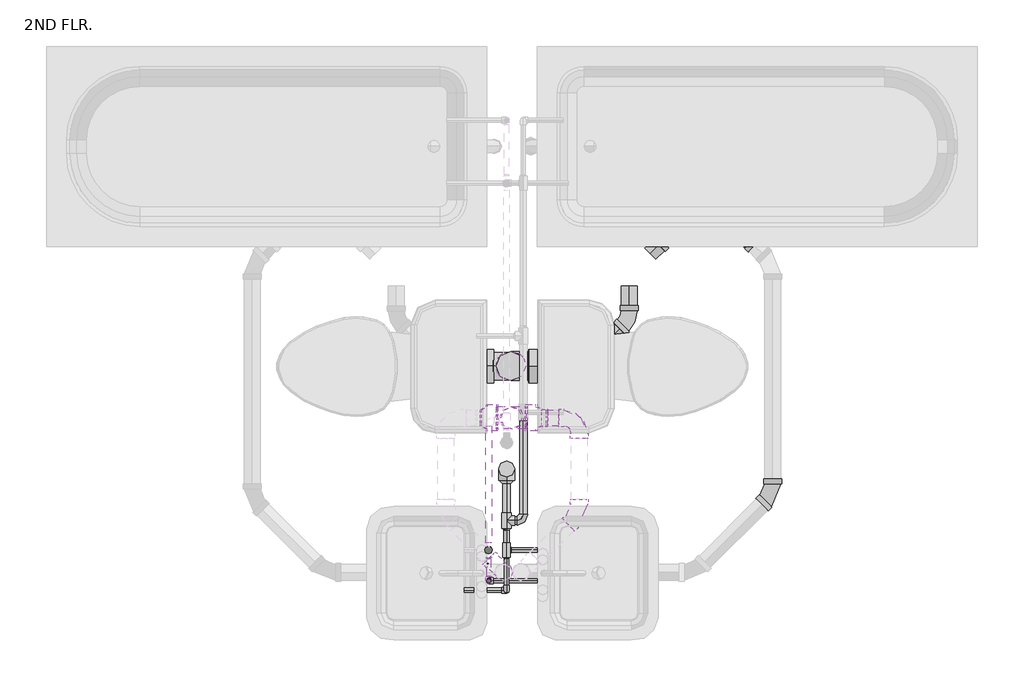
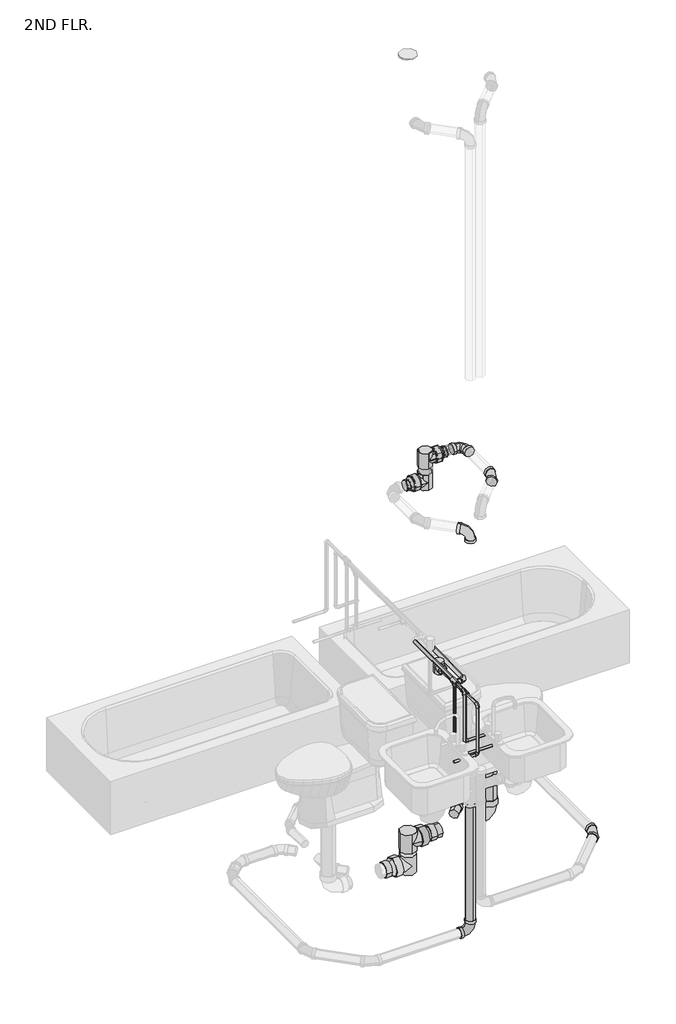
# One storey, part 3 of 15: 40 pipe fittings, 27 pipe segments.
"""IFC4 building model written with IfcOpenShell, lengths in millimetres."""

from ifc_helpers import new_model, si_unit, point, frame, frame_2d, origin, place, context, project, spatial, circle_curve, trimmed, segment, composite_curve, outline, extrude, transform, mapped, element, save
from components import bend_pvc_sch_40_dwv_standard_c28c2be1, bend_pvc_sch_40_dwv_standard_1eaeee76, bend_pvc_sch_40_dwv_standard_7417f2e3, bend_pvc_sch_40_dwv_standard_1a41d59f, bend_pvc_sch_40_dwv_standard_49f8c181, bend_pvc_sch_40_dwv_standard_f64d1520, bend_pvc_sch_40_dwv_standard_b7f24270, bend_pvc_sch_40_dwv_standard_48e93688, pipe_elbow_copper_k_aad62f2d, pipe_elbow_copper_k_a25a5501, pipe_tee_copper_k_36278b8a, pipe_tee_copper_k_ee363fbf, pipe_tee_copper_k_feafe2f1, pipe_tee_copper_k_8ae7f23d, pipe_tee_standard_047cd2b9, pipe_tee_standard_6d2680c1, pipe_transition_copper_k_859ff352, pipe_transition_copper_k_b4f16853, pipe_transition_copper_k_5cd7eb3f, reducer_pvc_sch_40_dwv_standard_464ee0c2, reducer_pvc_sch_40_dwv_standard_7c527b54, tee_generic_standard_f53002be

model = new_model("IFC4")

# Units and contexts
model_context = context("Model", 3, world=origin())
ifc_project = project(units=[si_unit("LENGTHUNIT", "METRE", prefix="MILLI")], contexts=[model_context])

# Site, building, storey
site = spatial("IfcSite", under=ifc_project)
building = spatial("IfcBuilding", under=site)
storey = spatial("IfcBuildingStorey", under=building, Name="2ND FLR.", Elevation=2844.8)

# Pipe fittings
placement = place(None, origin())
bend_pvc_sch_40_dwv_standard_shape = bend_pvc_sch_40_dwv_standard_c28c2be1(model_context)
element("IfcPipeFitting", 1, ObjectType="Bend - PVC - Sch 40 - DWV : Standard", at=placement, inside=storey, context=model_context, shape_type="MappedRepresentation", body=[
    mapped(bend_pvc_sch_40_dwv_standard_shape, transform((2563.0324353, 3982.0521786, 2461.5949826), x_axis=(0.7071067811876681, -0.7071067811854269, 0.0), y_axis=(0.7071067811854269, 0.7071067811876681, 0.0), z_axis=(0.0, 0.0, 1.0))),
])
bend_pvc_sch_40_dwv_standard_2_shape = bend_pvc_sch_40_dwv_standard_1eaeee76(model_context)
element("IfcPipeFitting", 2, ObjectType="Bend - PVC - Sch 40 - DWV : Standard", at=placement, inside=storey, context=model_context, shape_type="MappedRepresentation", body=[
    mapped(bend_pvc_sch_40_dwv_standard_2_shape, transform((2085.2449931, 2535.844278, 5187.9447608), x_axis=(0.0, 0.0, 1.0), y_axis=(-0.7071067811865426, 0.7071067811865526, 0.0), z_axis=(-0.7071067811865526, -0.7071067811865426, 0.0))),
])
element("IfcPipeFitting", 3, ObjectType="Bend - PVC - Sch 40 - DWV : Standard", at=placement, inside=storey, context=model_context, shape_type="MappedRepresentation", body=[
    mapped(bend_pvc_sch_40_dwv_standard_2_shape, transform((2085.1822491, 2535.7550295, 2303.90951), x_axis=(1.0, 0.0, 0.0), y_axis=(0.0, 3.174057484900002e-05, 0.9999999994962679), z_axis=(0.0, -0.9999999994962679, 3.174057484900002e-05))),
])
bend_pvc_sch_40_dwv_standard_3_shape = bend_pvc_sch_40_dwv_standard_7417f2e3(model_context)
element("IfcPipeFitting", 4, ObjectType="Bend - PVC - Sch 40 - DWV : Standard", at=placement, inside=storey, context=model_context, shape_type="MappedRepresentation", body=[
    mapped(bend_pvc_sch_40_dwv_standard_3_shape, transform((2670.7109214, 3321.8387881, 2460.5717279), x_axis=(0.9999739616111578, 0.0, -0.0072163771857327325), y_axis=(-0.0072163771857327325, 0.0, -0.9999739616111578), z_axis=(0.0, 1.0, 0.0))),
])
bend_pvc_sch_40_dwv_standard_4_shape = bend_pvc_sch_40_dwv_standard_1a41d59f(model_context)
element("IfcPipeFitting", 5, ObjectType="Bend - PVC - Sch 40 - DWV : Standard", at=placement, inside=storey, context=model_context, shape_type="MappedRepresentation", body=[
    mapped(bend_pvc_sch_40_dwv_standard_4_shape, transform((2563.0324353, 3499.7538114, 2461.5949826), x_axis=(0.0, -1.0, 0.0), y_axis=(0.9999186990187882, 0.0, -0.012751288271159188), z_axis=(0.012751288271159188, 0.0, 0.9999186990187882))),
])
bend_pvc_sch_40_dwv_standard_5_shape = bend_pvc_sch_40_dwv_standard_49f8c181(model_context)
element("IfcPipeFitting", 6, ObjectType="Bend - PVC - Sch 40 - DWV : Standard", at=placement, inside=storey, context=model_context, shape_type="MappedRepresentation", body=[
    mapped(bend_pvc_sch_40_dwv_standard_5_shape, transform((2372.3084875, 3124.2879719, 5340.4070012), x_axis=(1.0, 0.0, 0.0), y_axis=(0.0, 0.9999999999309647, -1.1750347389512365e-05), z_axis=(0.0, 1.1750347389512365e-05, 0.9999999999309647))),
])
bend_pvc_sch_40_dwv_standard_6_shape = bend_pvc_sch_40_dwv_standard_f64d1520(model_context)
element("IfcPipeFitting", 7, ObjectType="Bend - PVC - Sch 40 - DWV : Standard", at=placement, inside=storey, context=model_context, shape_type="MappedRepresentation", body=[
    mapped(bend_pvc_sch_40_dwv_standard_6_shape, transform((3108.9116861, 2834.70283, 2461.5689525), x_axis=(0.0, -1.0, 0.0), y_axis=(0.9999999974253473, 0.0, -7.175866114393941e-05), z_axis=(7.175866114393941e-05, 0.0, 0.9999999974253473))),
])
element("IfcPipeFitting", 8, ObjectType="Bend - PVC - Sch 40 - DWV : Standard", at=placement, inside=storey, context=model_context, shape_type="MappedRepresentation", body=[
    mapped(bend_pvc_sch_40_dwv_standard_6_shape, transform((2999.0889044, 3821.2555847, 2461.5689525), x_axis=(1.0, 0.0, 0.0), y_axis=(0.0, 1.0, 0.0), z_axis=(0.0, 0.0, 1.0))),
])
element("IfcPipeFitting", 9, ObjectType="Bend - PVC - Sch 40 - DWV : Standard", at=placement, inside=storey, context=model_context, shape_type="MappedRepresentation", body=[
    mapped(bend_pvc_sch_40_dwv_standard_6_shape, transform((2372.3084882, 2756.7793027, 5340.4113469), x_axis=(2.761384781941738e-10, -0.9999999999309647, 1.1750347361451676e-05), y_axis=(0.9999999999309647, 1.3806781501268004e-10, -1.1750347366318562e-05), z_axis=(1.1750347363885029e-05, 1.175034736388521e-05, 0.9999999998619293))),
])
bend_pvc_sch_40_dwv_standard_7_shape = bend_pvc_sch_40_dwv_standard_b7f24270(model_context)
element("IfcPipeFitting", 10, ObjectType="Bend - PVC - Sch 40 - DWV : Standard", at=placement, inside=storey, context=model_context, shape_type="MappedRepresentation", body=[
    mapped(bend_pvc_sch_40_dwv_standard_7_shape, transform((2713.5048204, 3819.4449792, 2460.289971), x_axis=(0.7071067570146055, 0.7071067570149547, 0.00026147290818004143), y_axis=(-0.707106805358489, 0.7071067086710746, 0.00026147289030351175), z_axis=(0.0, -0.00036977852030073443, 0.9999999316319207))),
])
bend_pvc_sch_40_dwv_standard_8_shape = bend_pvc_sch_40_dwv_standard_48e93688(model_context)
element("IfcPipeFitting", 11, ObjectType="Bend - PVC - Sch 40 - DWV : Standard", at=placement, inside=storey, context=model_context, shape_type="MappedRepresentation", body=[
    mapped(bend_pvc_sch_40_dwv_standard_8_shape, transform((2372.3085485, 3124.2566719, 5340.3916904), x_axis=(0.9999989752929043, 0.0, -0.0014315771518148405), y_axis=(-1.2572891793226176e-08, 0.9999999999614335, -8.782538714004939e-06), z_axis=(0.0014315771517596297, 8.782547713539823e-06, 0.9999989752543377))),
])
pipe_elbow_copper_k_shape = pipe_elbow_copper_k_aad62f2d(model_context)
element("IfcPipeFitting", 12, ObjectType="Pipe Elbow : Copper- K", at=placement, inside=storey, context=model_context, shape_type="MappedRepresentation", body=[
    mapped(pipe_elbow_copper_k_shape, transform((2096.0834875, 2468.1949561, 3962.4), x_axis=(0.0, -1.0, 0.0), y_axis=(0.0, 0.0, -1.0), z_axis=(1.0, 0.0, 0.0))),
])
element("IfcPipeFitting", 13, ObjectType="Pipe Elbow : Copper- K", at=placement, inside=storey, context=model_context, shape_type="MappedRepresentation", body=[
    mapped(pipe_elbow_copper_k_shape, transform((2096.0834875, 2468.1949561, 3606.8), x_axis=(0.0, 0.0, -1.0), y_axis=(-1.0, 0.0, 0.0), z_axis=(0.0, 1.0, 0.0))),
])
element("IfcPipeFitting", 14, ObjectType="Pipe Elbow : Copper- K", at=placement, inside=storey, context=model_context, shape_type="MappedRepresentation", body=[
    mapped(pipe_elbow_copper_k_shape, transform((2096.0834875, 2620.8535326, 3606.8), x_axis=(0.0, 0.0, -1.0), y_axis=(1.0, 0.0, 0.0), z_axis=(0.0, -1.0, 0.0))),
])
element("IfcPipeFitting", 15, ObjectType="Pipe Elbow : Copper- K", at=placement, inside=storey, context=model_context, shape_type="MappedRepresentation", body=[
    mapped(pipe_elbow_copper_k_shape, transform((2027.8209875, 2503.1307452, 4064.0), x_axis=(0.0, -1.0, 0.0), y_axis=(0.0, 0.0, -1.0), z_axis=(1.0, 0.0, 0.0))),
])
element("IfcPipeFitting", 16, ObjectType="Pipe Elbow : Copper- K", at=placement, inside=storey, context=model_context, shape_type="MappedRepresentation", body=[
    mapped(pipe_elbow_copper_k_shape, transform((2027.8209875, 2503.1307452, 3606.8), x_axis=(0.0, 0.0, -1.0), y_axis=(1.0, 0.0, 0.0), z_axis=(0.0, -1.0, 0.0))),
])
element("IfcPipeFitting", 17, ObjectType="Pipe Elbow : Copper- K", at=placement, inside=storey, context=model_context, shape_type="MappedRepresentation", body=[
    mapped(pipe_elbow_copper_k_shape, transform((2027.8209875, 2620.8535326, 3637.2601563), x_axis=(0.0, 0.0, -1.0), y_axis=(-1.0, 0.0, 0.0), z_axis=(0.0, 1.0, 0.0))),
])
pipe_elbow_copper_k_2_shape = pipe_elbow_copper_k_a25a5501(model_context)
element("IfcPipeFitting", 18, ObjectType="Pipe Elbow : Copper- K", at=placement, inside=storey, context=model_context, shape_type="MappedRepresentation", body=[
    mapped(pipe_elbow_copper_k_2_shape, transform((2159.5834875, 2733.1182853, 3962.4), x_axis=(1.0, 0.0, 0.0), y_axis=(0.0, 1.0, 0.0), z_axis=(0.0, 0.0, 1.0))),
])
pipe_tee_copper_k_shape = pipe_tee_copper_k_36278b8a(model_context)
element("IfcPipeFitting", 19, ObjectType="Pipe Tee : Copper- K", at=placement, inside=storey, context=model_context, shape_type="MappedRepresentation", body=[
    mapped(pipe_tee_copper_k_shape, transform((2096.0834875, 2929.398977, 3962.4), x_axis=(0.0, 0.0, 1.0), y_axis=(0.0, 1.0, 0.0), z_axis=(-1.0, 0.0, 0.0))),
])
pipe_tee_copper_k_2_shape = pipe_tee_copper_k_ee363fbf(model_context)
element("IfcPipeFitting", 20, ObjectType="Pipe Tee : Copper- K", at=placement, inside=storey, context=model_context, shape_type="MappedRepresentation", body=[
    mapped(pipe_tee_copper_k_2_shape, transform((2096.0834875, 2620.8535326, 3962.4), x_axis=(0.0, 1.0, 0.0), y_axis=(0.0, 0.0, 1.0), z_axis=(1.0, 0.0, 0.0))),
])
element("IfcPipeFitting", 21, ObjectType="Pipe Tee : Copper- K", at=placement, inside=storey, context=model_context, shape_type="MappedRepresentation", body=[
    mapped(pipe_tee_copper_k_2_shape, transform((2027.8209875, 2620.8535326, 4064.0), x_axis=(0.0, 1.0, 0.0), y_axis=(0.0, 0.0, 1.0), z_axis=(1.0, 0.0, 0.0))),
])
pipe_tee_copper_k_3_shape = pipe_tee_copper_k_feafe2f1(model_context)
element("IfcPipeFitting", 22, ObjectType="Pipe Tee : Copper- K", at=placement, inside=storey, context=model_context, shape_type="MappedRepresentation", body=[
    mapped(pipe_tee_copper_k_3_shape, transform((2096.0834875, 2733.1182853, 3962.4), x_axis=(0.0, 1.0, 0.0), y_axis=(-1.0, 0.0, 0.0), z_axis=(0.0, 0.0, 1.0))),
])
pipe_tee_copper_k_4_shape = pipe_tee_copper_k_8ae7f23d(model_context)
element("IfcPipeFitting", 23, ObjectType="Pipe Tee : Copper- K", at=placement, inside=storey, context=model_context, shape_type="MappedRepresentation", body=[
    mapped(pipe_tee_copper_k_4_shape, transform((2111.7559337, 3124.1638117, 5187.95), x_axis=(0.0, 0.0, 1.0), y_axis=(-1.0, 0.0, 0.0), z_axis=(0.0, -1.0, 0.0))),
])
element("IfcPipeFitting", 24, ObjectType="Pipe Tee : Standard", at=placement, inside=storey, context=model_context, shape_type="MappedRepresentation", body=[
    mapped(pipe_tee_copper_k_4_shape, transform((2111.7559337, 3124.1638117, 5340.35), x_axis=(0.0, 0.0, 1.0), y_axis=(1.0, 0.0, 0.0), z_axis=(0.0, 1.0, 0.0))),
])
element("IfcPipeFitting", 25, ObjectType="Pipe Tee : Standard", at=placement, inside=storey, context=model_context, shape_type="MappedRepresentation", body=[
    mapped(pipe_tee_copper_k_4_shape, transform((2118.30848, 3124.1638117, 5187.9490858), x_axis=(0.0, 0.0, 1.0), y_axis=(-1.0, 0.0, 0.0), z_axis=(0.0, -1.0, 0.0))),
])
pipe_tee_standard_shape = pipe_tee_standard_047cd2b9(model_context)
element("IfcPipeFitting", 26, ObjectType="Pipe Tee : Standard", at=placement, inside=storey, context=model_context, shape_type="MappedRepresentation", body=[
    mapped(pipe_tee_standard_shape, transform((2118.30848, 3124.1638117, 5340.7127068), x_axis=(0.0, 0.0, 1.0), y_axis=(1.0, 0.0, 0.0), z_axis=(0.0, 1.0, 0.0))),
])
pipe_tee_standard_2_shape = pipe_tee_standard_6d2680c1(model_context)
element("IfcPipeFitting", 27, ObjectType="Pipe Tee : Standard", at=placement, inside=storey, context=model_context, shape_type="MappedRepresentation", body=[
    mapped(pipe_tee_standard_2_shape, transform((2111.7564013, 3321.8387881, 2464.5581717), x_axis=(-6.991457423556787e-08, 0.0, 0.9999999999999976), y_axis=(0.9999999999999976, 0.0, 6.991457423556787e-08), z_axis=(0.0, 1.0, 0.0))),
])
pipe_transition_copper_k_shape = pipe_transition_copper_k_859ff352(model_context)
element("IfcPipeFitting", 28, ObjectType="Pipe Transition : Copper- K", at=placement, inside=storey, context=model_context, shape_type="MappedRepresentation", body=[
    mapped(pipe_transition_copper_k_shape, transform((2096.0834875, 2620.8535326, 3935.4125), x_axis=(0.0, 0.0, -1.0), y_axis=(0.0, 1.0, 0.0), z_axis=(1.0, 0.0, 0.0))),
])
element("IfcPipeFitting", 29, ObjectType="Pipe Transition : Copper- K", at=placement, inside=storey, context=model_context, shape_type="MappedRepresentation", body=[
    mapped(pipe_transition_copper_k_shape, transform((2096.0834875, 2593.8660326, 3962.4), x_axis=(0.0, -1.0, 0.0), y_axis=(1.0, 0.0, 0.0), z_axis=(0.0, 0.0, 1.0))),
])
element("IfcPipeFitting", 30, ObjectType="Pipe Transition : Copper- K", at=placement, inside=storey, context=model_context, shape_type="MappedRepresentation", body=[
    mapped(pipe_transition_copper_k_shape, transform((2027.8209875, 2620.8535326, 4037.0125), x_axis=(0.0, 0.0, -1.0), y_axis=(0.0, -1.0, 0.0), z_axis=(-1.0, 0.0, 0.0))),
])
element("IfcPipeFitting", 31, ObjectType="Pipe Transition : Copper- K", at=placement, inside=storey, context=model_context, shape_type="MappedRepresentation", body=[
    mapped(pipe_transition_copper_k_shape, transform((2027.8209875, 2593.8660326, 4064.0), x_axis=(0.0, -1.0, 0.0), y_axis=(1.0, 0.0, 0.0), z_axis=(0.0, 0.0, 1.0))),
])
pipe_transition_copper_k_2_shape = pipe_transition_copper_k_b4f16853(model_context)
element("IfcPipeFitting", 32, ObjectType="Pipe Transition : Copper- K", at=placement, inside=storey, context=model_context, shape_type="MappedRepresentation", body=[
    mapped(pipe_transition_copper_k_2_shape, transform((2096.0834875, 2702.9557853, 3962.4), x_axis=(0.0, -1.0, 0.0), y_axis=(1.0, 0.0, 0.0), z_axis=(0.0, 0.0, 1.0))),
])
pipe_transition_copper_k_3_shape = pipe_transition_copper_k_5cd7eb3f(model_context)
element("IfcPipeFitting", 33, ObjectType="Pipe Transition : Copper- K", at=placement, inside=storey, context=model_context, shape_type="MappedRepresentation", body=[
    mapped(pipe_transition_copper_k_3_shape, transform((2096.0834875, 2886.536477, 3962.4), x_axis=(0.0, -1.0, 0.0), y_axis=(1.0, 0.0, 0.0), z_axis=(0.0, 0.0, 1.0))),
])
reducer_pvc_sch_40_dwv_standard_shape = reducer_pvc_sch_40_dwv_standard_464ee0c2(model_context)
element("IfcPipeFitting", 34, ObjectType="Reducer - PVC - Sch 40 - DWV : Standard", at=placement, inside=storey, context=model_context, shape_type="MappedRepresentation", body=[
    mapped(reducer_pvc_sch_40_dwv_standard_shape, transform((2167.3184337, 3124.1638117, 5340.35), x_axis=(1.0, 0.0, 0.0), y_axis=(0.0, 1.0, 0.0), z_axis=(0.0, 0.0, 1.0))),
])
element("IfcPipeFitting", 35, ObjectType="Reducer - PVC - Sch 40 - DWV : Standard", at=placement, inside=storey, context=model_context, shape_type="MappedRepresentation", body=[
    mapped(reducer_pvc_sch_40_dwv_standard_shape, transform((2056.1934337, 3124.1638117, 5187.95), x_axis=(-1.0, 0.0, 0.0), y_axis=(0.0, -1.0, 0.0), z_axis=(0.0, 0.0, 1.0))),
])
element("IfcPipeFitting", 36, ObjectType="Reducer - PVC - Sch 40 - DWV : Standard", at=placement, inside=storey, context=model_context, shape_type="MappedRepresentation", body=[
    mapped(reducer_pvc_sch_40_dwv_standard_shape, transform((2062.74598, 3124.1638117, 5187.9490858), x_axis=(-1.0, 0.0, 0.0), y_axis=(0.0, -1.0, 0.0), z_axis=(0.0, 0.0, 1.0))),
])
element("IfcPipeFitting", 37, ObjectType="Reducer - PVC - Sch 40 - DWV : Standard", at=placement, inside=storey, context=model_context, shape_type="MappedRepresentation", body=[
    mapped(reducer_pvc_sch_40_dwv_standard_shape, transform((2173.8709231, 3124.1638117, 5340.6331648), x_axis=(0.9999989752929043, 0.0, -0.001431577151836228), y_axis=(0.0, 1.0000000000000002, 0.0), z_axis=(0.001431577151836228, 0.0, 0.9999989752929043))),
])
reducer_pvc_sch_40_dwv_standard_2_shape = reducer_pvc_sch_40_dwv_standard_7c527b54(model_context)
element("IfcPipeFitting", 38, ObjectType="Reducer - PVC - Sch 40 - DWV : Standard", at=placement, inside=storey, context=model_context, shape_type="MappedRepresentation", body=[
    mapped(reducer_pvc_sch_40_dwv_standard_2_shape, transform((2046.6709483, 3321.8387881, 2306.3393884), x_axis=(-0.9999739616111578, 0.0, -0.007216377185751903), y_axis=(0.007216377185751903, 0.0, -0.9999739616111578), z_axis=(0.0, -1.0, 0.0))),
])
element("IfcPipeFitting", 39, ObjectType="Reducer - PVC - Sch 40 - DWV : Standard", at=placement, inside=storey, context=model_context, shape_type="MappedRepresentation", body=[
    mapped(reducer_pvc_sch_40_dwv_standard_2_shape, transform((2180.0174651, 3321.8387881, 2464.1128491), x_axis=(0.9999739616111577, 0.0, -0.007216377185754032), y_axis=(-0.007216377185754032, 0.0, -0.9999739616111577), z_axis=(0.0, 1.0, 0.0))),
])
tee_generic_standard_shape = tee_generic_standard_f53002be(model_context)
element("IfcPipeFitting", 40, ObjectType="Tee - Generic : Standard", at=placement, inside=storey, context=model_context, shape_type="MappedRepresentation", body=[
    mapped(tee_generic_standard_shape, transform((2111.7564123, 3321.8387881, 2306.8563689), x_axis=(-6.991457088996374e-08, 0.0, 0.9999999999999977), y_axis=(-0.9999999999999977, 0.0, -6.991457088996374e-08), z_axis=(0.0, -1.0, 0.0))),
])

# Pipe segments
element("IfcPipeSegment", 41, ObjectType="Copper", at=placement, inside=storey, context=model_context, shape_type="SweptSolid", body=[
    extrude(outline(composite_curve([segment(trimmed(circle_curve(frame_2d((3962.4, 2096.0834875)), 7.9375), [point((3962.4, 2088.1459875))], [point((3954.4625, 2096.0834875))], False, "CARTESIAN"), True, "CONTINUOUS"), segment(trimmed(circle_curve(frame_2d((3962.4, 2096.0834875)), 7.9375), [point((3954.4625, 2096.0834875))], [point((3962.4, 2104.0209875))], False, "CARTESIAN"), True, "CONTINUOUS"), segment(trimmed(circle_curve(frame_2d((3962.4, 2096.0834875)), 7.9375), [point((3962.4, 2104.0209875))], [point((3970.3375, 2096.0834875))], False, "CARTESIAN"), True, "CONTINUOUS"), segment(trimmed(circle_curve(frame_2d((3962.4, 2096.0834875)), 7.9375), [point((3970.3375, 2096.0834875))], [point((3962.4, 2088.1459875))], False, "CARTESIAN"), True, "CONTINUOUS")], self_intersect=False)), frame((0.0, 2485.6574561, 0.0), z_axis=(0.0, 1.0, 0.0), x_axis=(0.0, 0.0, 1.0)), (0.0, 0.0, 1.0), 102.6523264),
])
element("IfcPipeSegment", 42, ObjectType="Copper", at=placement, inside=storey, context=model_context, shape_type="SweptSolid", body=[
    extrude(outline(composite_curve([segment(trimmed(circle_curve(frame_2d((2468.1949561, 3606.8)), 7.9375), [point((2476.1324561, 3606.8))], [point((2468.1949561, 3598.8625))], False, "CARTESIAN"), True, "CONTINUOUS"), segment(trimmed(circle_curve(frame_2d((2468.1949561, 3606.8)), 7.9375), [point((2468.1949561, 3598.8625))], [point((2460.2574561, 3606.8))], False, "CARTESIAN"), True, "CONTINUOUS"), segment(trimmed(circle_curve(frame_2d((2468.1949561, 3606.8)), 7.9375), [point((2460.2574561, 3606.8))], [point((2468.1949561, 3614.7375))], False, "CARTESIAN"), True, "CONTINUOUS"), segment(trimmed(circle_curve(frame_2d((2468.1949561, 3606.8)), 7.9375), [point((2468.1949561, 3614.7375))], [point((2476.1324561, 3606.8))], False, "CARTESIAN"), True, "CONTINUOUS")], self_intersect=False)), frame((1934.1584875, 0.0, 0.0), z_axis=(1.0, 0.0, 0.0), x_axis=(0.0, 1.0, 0.0)), (0.0, 0.0, 1.0), 144.4625),
])
element("IfcPipeSegment", 43, ObjectType="Copper", at=placement, inside=storey, context=model_context, shape_type="SweptSolid", body=[
    extrude(outline(composite_curve([segment(trimmed(circle_curve(frame_2d((2096.0834875, 2468.1949561)), 7.9375), [point((2104.0209875, 2468.1949561))], [point((2096.0834875, 2460.2574561))], False, "CARTESIAN"), True, "CONTINUOUS"), segment(trimmed(circle_curve(frame_2d((2096.0834875, 2468.1949561)), 7.9375), [point((2096.0834875, 2460.2574561))], [point((2088.1459875, 2468.1949561))], False, "CARTESIAN"), True, "CONTINUOUS"), segment(trimmed(circle_curve(frame_2d((2096.0834875, 2468.1949561)), 7.9375), [point((2088.1459875, 2468.1949561))], [point((2096.0834875, 2476.1324561))], False, "CARTESIAN"), True, "CONTINUOUS"), segment(trimmed(circle_curve(frame_2d((2096.0834875, 2468.1949561)), 7.9375), [point((2096.0834875, 2476.1324561))], [point((2104.0209875, 2468.1949561))], False, "CARTESIAN"), True, "CONTINUOUS")], self_intersect=False)), frame((0.0, 0.0, 3624.2625), z_axis=(0.0, 0.0, 1.0), x_axis=(1.0, 0.0, 0.0)), (0.0, 0.0, 1.0), 320.675),
])
element("IfcPipeSegment", 44, ObjectType="Copper", at=placement, inside=storey, context=model_context, shape_type="SweptSolid", body=[
    extrude(outline(composite_curve([segment(trimmed(circle_curve(frame_2d((2620.8535326, 3606.8)), 7.9375), [point((2612.9160326, 3606.8))], [point((2620.8535326, 3614.7375))], False, "CARTESIAN"), True, "CONTINUOUS"), segment(trimmed(circle_curve(frame_2d((2620.8535326, 3606.8)), 7.9375), [point((2620.8535326, 3614.7375))], [point((2628.7910326, 3606.8))], False, "CARTESIAN"), True, "CONTINUOUS"), segment(trimmed(circle_curve(frame_2d((2620.8535326, 3606.8)), 7.9375), [point((2628.7910326, 3606.8))], [point((2620.8535326, 3598.8625))], False, "CARTESIAN"), True, "CONTINUOUS"), segment(trimmed(circle_curve(frame_2d((2620.8535326, 3606.8)), 7.9375), [point((2620.8535326, 3598.8625))], [point((2612.9160326, 3606.8))], False, "CARTESIAN"), True, "CONTINUOUS")], self_intersect=False)), frame((2113.5459875, 0.0, 0.0), z_axis=(1.0, 0.0, 0.0), x_axis=(0.0, 1.0, 0.0)), (0.0, 0.0, 1.0), 133.35),
])
element("IfcPipeSegment", 45, ObjectType="Copper", at=placement, inside=storey, context=model_context, shape_type="SweptSolid", body=[
    extrude(outline(composite_curve([segment(trimmed(circle_curve(frame_2d((2096.0834875, 2620.8535326)), 7.9375), [point((2104.0209875, 2620.8535326))], [point((2096.0834875, 2612.9160326))], False, "CARTESIAN"), True, "CONTINUOUS"), segment(trimmed(circle_curve(frame_2d((2096.0834875, 2620.8535326)), 7.9375), [point((2096.0834875, 2612.9160326))], [point((2088.1459875, 2620.8535326))], False, "CARTESIAN"), True, "CONTINUOUS"), segment(trimmed(circle_curve(frame_2d((2096.0834875, 2620.8535326)), 7.9375), [point((2088.1459875, 2620.8535326))], [point((2096.0834875, 2628.7910326))], False, "CARTESIAN"), True, "CONTINUOUS"), segment(trimmed(circle_curve(frame_2d((2096.0834875, 2620.8535326)), 7.9375), [point((2096.0834875, 2628.7910326))], [point((2104.0209875, 2620.8535326))], False, "CARTESIAN"), True, "CONTINUOUS")], self_intersect=False)), frame((0.0, 0.0, 3624.2625), z_axis=(0.0, 0.0, 1.0), x_axis=(1.0, 0.0, 0.0)), (0.0, 0.0, 1.0), 305.59375),
])
element("IfcPipeSegment", 46, ObjectType="Copper", at=placement, inside=storey, context=model_context, shape_type="SweptSolid", body=[
    extrude(outline(composite_curve([segment(trimmed(circle_curve(frame_2d((3962.4, 2096.0834875)), 11.1125), [point((3962.4, 2084.9709875))], [point((3951.2875, 2096.0834875))], False, "CARTESIAN"), True, "CONTINUOUS"), segment(trimmed(circle_curve(frame_2d((3962.4, 2096.0834875)), 11.1125), [point((3951.2875, 2096.0834875))], [point((3962.4, 2107.1959875))], False, "CARTESIAN"), True, "CONTINUOUS"), segment(trimmed(circle_curve(frame_2d((3962.4, 2096.0834875)), 11.1125), [point((3962.4, 2107.1959875))], [point((3973.5125, 2096.0834875))], False, "CARTESIAN"), True, "CONTINUOUS"), segment(trimmed(circle_curve(frame_2d((3962.4, 2096.0834875)), 11.1125), [point((3973.5125, 2096.0834875))], [point((3962.4, 2084.9709875))], False, "CARTESIAN"), True, "CONTINUOUS")], self_intersect=False)), frame((0.0, 2647.8410326, 0.0), z_axis=(0.0, 1.0, 0.0), x_axis=(0.0, 0.0, 1.0)), (0.0, 0.0, 1.0), 47.9710027),
])
element("IfcPipeSegment", 47, ObjectType="Copper", at=placement, inside=storey, context=model_context, shape_type="SweptSolid", body=[
    extrude(outline(composite_curve([segment(trimmed(circle_curve(frame_2d((4064.0, 2027.8209875)), 7.9375), [point((4064.0, 2019.8834875))], [point((4056.0625, 2027.8209875))], False, "CARTESIAN"), True, "CONTINUOUS"), segment(trimmed(circle_curve(frame_2d((4064.0, 2027.8209875)), 7.9375), [point((4056.0625, 2027.8209875))], [point((4064.0, 2035.7584875))], False, "CARTESIAN"), True, "CONTINUOUS"), segment(trimmed(circle_curve(frame_2d((4064.0, 2027.8209875)), 7.9375), [point((4064.0, 2035.7584875))], [point((4071.9375, 2027.8209875))], False, "CARTESIAN"), True, "CONTINUOUS"), segment(trimmed(circle_curve(frame_2d((4064.0, 2027.8209875)), 7.9375), [point((4071.9375, 2027.8209875))], [point((4064.0, 2019.8834875))], False, "CARTESIAN"), True, "CONTINUOUS")], self_intersect=False)), frame((0.0, 2520.5932452, 0.0), z_axis=(0.0, 1.0, 0.0), x_axis=(0.0, 0.0, 1.0)), (0.0, 0.0, 1.0), 67.7165373),
])
element("IfcPipeSegment", 48, ObjectType="Copper", at=placement, inside=storey, context=model_context, shape_type="SweptSolid", body=[
    extrude(outline(composite_curve([segment(trimmed(circle_curve(frame_2d((2503.1307452, 3606.8)), 7.9375), [point((2495.1932452, 3606.8))], [point((2503.1307452, 3614.7375))], False, "CARTESIAN"), True, "CONTINUOUS"), segment(trimmed(circle_curve(frame_2d((2503.1307452, 3606.8)), 7.9375), [point((2503.1307452, 3614.7375))], [point((2511.0682452, 3606.8))], False, "CARTESIAN"), True, "CONTINUOUS"), segment(trimmed(circle_curve(frame_2d((2503.1307452, 3606.8)), 7.9375), [point((2511.0682452, 3606.8))], [point((2503.1307452, 3598.8625))], False, "CARTESIAN"), True, "CONTINUOUS"), segment(trimmed(circle_curve(frame_2d((2503.1307452, 3606.8)), 7.9375), [point((2503.1307452, 3598.8625))], [point((2495.1932452, 3606.8))], False, "CARTESIAN"), True, "CONTINUOUS")], self_intersect=False)), frame((2045.2834875, 0.0, 0.0), z_axis=(1.0, 0.0, 0.0), x_axis=(0.0, 1.0, 0.0)), (0.0, 0.0, 1.0), 166.6875),
])
element("IfcPipeSegment", 49, ObjectType="Copper", at=placement, inside=storey, context=model_context, shape_type="SweptSolid", body=[
    extrude(outline(composite_curve([segment(trimmed(circle_curve(frame_2d((2027.8209875, 2503.1307452)), 7.9375), [point((2035.7584875, 2503.1307452))], [point((2027.8209875, 2495.1932452))], False, "CARTESIAN"), True, "CONTINUOUS"), segment(trimmed(circle_curve(frame_2d((2027.8209875, 2503.1307452)), 7.9375), [point((2027.8209875, 2495.1932452))], [point((2019.8834875, 2503.1307452))], False, "CARTESIAN"), True, "CONTINUOUS"), segment(trimmed(circle_curve(frame_2d((2027.8209875, 2503.1307452)), 7.9375), [point((2019.8834875, 2503.1307452))], [point((2027.8209875, 2511.0682452))], False, "CARTESIAN"), True, "CONTINUOUS"), segment(trimmed(circle_curve(frame_2d((2027.8209875, 2503.1307452)), 7.9375), [point((2027.8209875, 2511.0682452))], [point((2035.7584875, 2503.1307452))], False, "CARTESIAN"), True, "CONTINUOUS")], self_intersect=False)), frame((0.0, 0.0, 3624.2625), z_axis=(0.0, 0.0, 1.0), x_axis=(1.0, 0.0, 0.0)), (0.0, 0.0, 1.0), 422.275),
])
element("IfcPipeSegment", 50, ObjectType="Copper", at=placement, inside=storey, context=model_context, shape_type="SweptSolid", body=[
    extrude(outline(composite_curve([segment(trimmed(circle_curve(frame_2d((2027.8209875, 2620.8535326)), 7.9375), [point((2035.7584875, 2620.8535326))], [point((2027.8209875, 2612.9160326))], False, "CARTESIAN"), True, "CONTINUOUS"), segment(trimmed(circle_curve(frame_2d((2027.8209875, 2620.8535326)), 7.9375), [point((2027.8209875, 2612.9160326))], [point((2019.8834875, 2620.8535326))], False, "CARTESIAN"), True, "CONTINUOUS"), segment(trimmed(circle_curve(frame_2d((2027.8209875, 2620.8535326)), 7.9375), [point((2019.8834875, 2620.8535326))], [point((2027.8209875, 2628.7910326))], False, "CARTESIAN"), True, "CONTINUOUS"), segment(trimmed(circle_curve(frame_2d((2027.8209875, 2620.8535326)), 7.9375), [point((2027.8209875, 2628.7910326))], [point((2035.7584875, 2620.8535326))], False, "CARTESIAN"), True, "CONTINUOUS")], self_intersect=False)), frame((0.0, 0.0, 3654.7226562), z_axis=(0.0, 0.0, 1.0), x_axis=(1.0, 0.0, 0.0)), (0.0, 0.0, 1.0), 376.7335937),
])
element("IfcPipeSegment", 51, ObjectType="Copper", at=placement, inside=storey, context=model_context, shape_type="SweptSolid", body=[
    extrude(outline(composite_curve([segment(trimmed(circle_curve(frame_2d((4064.0, 2027.8209875)), 11.1125), [point((4064.0, 2016.7084875))], [point((4052.8875, 2027.8209875))], False, "CARTESIAN"), True, "CONTINUOUS"), segment(trimmed(circle_curve(frame_2d((4064.0, 2027.8209875)), 11.1125), [point((4052.8875, 2027.8209875))], [point((4064.0, 2038.9334875))], False, "CARTESIAN"), True, "CONTINUOUS"), segment(trimmed(circle_curve(frame_2d((4064.0, 2027.8209875)), 11.1125), [point((4064.0, 2038.9334875))], [point((4075.1125, 2027.8209875))], False, "CARTESIAN"), True, "CONTINUOUS"), segment(trimmed(circle_curve(frame_2d((4064.0, 2027.8209875)), 11.1125), [point((4075.1125, 2027.8209875))], [point((4064.0, 2016.7084875))], False, "CARTESIAN"), True, "CONTINUOUS")], self_intersect=False)), frame((0.0, 2647.8410326, 0.0), z_axis=(0.0, 1.0, 0.0), x_axis=(0.0, 0.0, 1.0)), (0.0, 0.0, 1.0), 446.7666062),
])
element("IfcPipeSegment", 52, ObjectType="Copper", at=placement, inside=storey, context=model_context, shape_type="SweptSolid", body=[
    extrude(outline(composite_curve([segment(trimmed(circle_curve(frame_2d((2733.1182853, 3962.4)), 14.2875), [point((2718.8307853, 3962.4))], [point((2733.1182853, 3976.6875))], False, "CARTESIAN"), True, "CONTINUOUS"), segment(trimmed(circle_curve(frame_2d((2733.1182853, 3962.4)), 14.2875), [point((2733.1182853, 3976.6875))], [point((2747.4057853, 3962.4))], False, "CARTESIAN"), True, "CONTINUOUS"), segment(trimmed(circle_curve(frame_2d((2733.1182853, 3962.4)), 14.2875), [point((2747.4057853, 3962.4))], [point((2733.1182853, 3948.1125))], False, "CARTESIAN"), True, "CONTINUOUS"), segment(trimmed(circle_curve(frame_2d((2733.1182853, 3962.4)), 14.2875), [point((2733.1182853, 3948.1125))], [point((2718.8307853, 3962.4))], False, "CARTESIAN"), True, "CONTINUOUS")], self_intersect=False)), frame((2126.2459875, 0.0, 0.0), z_axis=(1.0, 0.0, 0.0), x_axis=(0.0, 1.0, 0.0)), (0.0, 0.0, 1.0), 9.525),
])
element("IfcPipeSegment", 53, ObjectType="Copper", at=placement, inside=storey, context=model_context, shape_type="SweptSolid", body=[
    extrude(outline(composite_curve([segment(trimmed(circle_curve(frame_2d((3962.4, 2096.0834875)), 14.2875), [point((3962.4, 2110.3709875))], [point((3976.6875, 2096.0834875))], False, "CARTESIAN"), True, "CONTINUOUS"), segment(trimmed(circle_curve(frame_2d((3962.4, 2096.0834875)), 14.2875), [point((3976.6875, 2096.0834875))], [point((3962.4, 2081.7959875))], False, "CARTESIAN"), True, "CONTINUOUS"), segment(trimmed(circle_curve(frame_2d((3962.4, 2096.0834875)), 14.2875), [point((3962.4, 2081.7959875))], [point((3948.1125, 2096.0834875))], False, "CARTESIAN"), True, "CONTINUOUS"), segment(trimmed(circle_curve(frame_2d((3962.4, 2096.0834875)), 14.2875), [point((3948.1125, 2096.0834875))], [point((3962.4, 2110.3709875))], False, "CARTESIAN"), True, "CONTINUOUS")], self_intersect=False)), frame((0.0, 2763.2807853, 0.0), z_axis=(0.0, 1.0, 0.0), x_axis=(0.0, 0.0, 1.0)), (0.0, 0.0, 1.0), 109.7619417),
])
element("IfcPipeSegment", 54, ObjectType="Copper", at=placement, inside=storey, context=model_context, shape_type="SweptSolid", body=[
    extrude(outline(composite_curve([segment(trimmed(circle_curve(frame_2d((3962.4, 2159.5834875)), 14.2875), [point((3962.4, 2173.8709875))], [point((3976.6875, 2159.5834875))], False, "CARTESIAN"), True, "CONTINUOUS"), segment(trimmed(circle_curve(frame_2d((3962.4, 2159.5834875)), 14.2875), [point((3976.6875, 2159.5834875))], [point((3962.4, 2145.2959875))], False, "CARTESIAN"), True, "CONTINUOUS"), segment(trimmed(circle_curve(frame_2d((3962.4, 2159.5834875)), 14.2875), [point((3962.4, 2145.2959875))], [point((3948.1125, 2159.5834875))], False, "CARTESIAN"), True, "CONTINUOUS"), segment(trimmed(circle_curve(frame_2d((3962.4, 2159.5834875)), 14.2875), [point((3948.1125, 2159.5834875))], [point((3962.4, 2173.8709875))], False, "CARTESIAN"), True, "CONTINUOUS")], self_intersect=False)), frame((0.0, 2756.9307853, 0.0), z_axis=(0.0, 1.0, 0.0), x_axis=(0.0, 0.0, 1.0)), (0.0, 0.0, 1.0), 357.7813964),
])
element("IfcPipeSegment", 55, ObjectType="PVC - SAN/STORM", at=placement, inside=storey, context=model_context, shape_type="SweptSolid", body=[
    extrude(outline(composite_curve([segment(trimmed(circle_curve(frame_2d((0.0, -44.45)), 44.45), [point((0.0, -88.9))], [point((-44.45, -44.45))], False, "CARTESIAN"), True, "CONTINUOUS"), segment(trimmed(circle_curve(frame_2d((0.0, -44.45)), 44.45), [point((-44.45, -44.45))], [point((0.0, 0.0))], False, "CARTESIAN"), True, "CONTINUOUS"), segment(trimmed(circle_curve(frame_2d((0.0, -44.45)), 44.45), [point((0.0, 0.0))], [point((44.45, -44.45))], False, "CARTESIAN"), True, "CONTINUOUS"), segment(trimmed(circle_curve(frame_2d((0.0, -44.45)), 44.45), [point((44.45, -44.45))], [point((0.0, -88.9))], False, "CARTESIAN"), True, "CONTINUOUS")], self_intersect=False)), frame((2324.7939828, 3366.2887881, 2463.06806), z_axis=(-0.9999739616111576, 0.0, 0.007216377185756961), x_axis=(0.007216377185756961, 0.0, 0.9999739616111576)), (0.0, 0.0, 1.0), 38.4050875),
])
element("IfcPipeSegment", 56, ObjectType="PVC - SAN/STORM", at=placement, inside=storey, context=model_context, shape_type="SweptSolid", body=[
    extrude(outline(composite_curve([segment(trimmed(circle_curve(frame_2d((2670.7109214, 3321.8387881)), 44.45), [point((2626.2609214, 3321.8387881))], [point((2670.7109214, 3366.2887881))], False, "CARTESIAN"), True, "CONTINUOUS"), segment(trimmed(circle_curve(frame_2d((2670.7109214, 3321.8387881)), 44.45), [point((2670.7109214, 3366.2887881))], [point((2715.1609214, 3321.8387881))], False, "CARTESIAN"), True, "CONTINUOUS"), segment(trimmed(circle_curve(frame_2d((2670.7109214, 3321.8387881)), 44.45), [point((2715.1609214, 3321.8387881))], [point((2670.7109214, 3277.3887881))], False, "CARTESIAN"), True, "CONTINUOUS"), segment(trimmed(circle_curve(frame_2d((2670.7109214, 3321.8387881)), 44.45), [point((2670.7109214, 3277.3887881))], [point((2626.2609214, 3321.8387881))], False, "CARTESIAN"), True, "CONTINUOUS")], self_intersect=False)), frame((0.0, 0.0, 2576.4719279), z_axis=(0.0, 0.0, 1.0), x_axis=(1.0, 0.0, 0.0)), (0.0, 0.0, 1.0), 268.3280721),
])
element("IfcPipeSegment", 57, ObjectType="PVC - SAN/STORM", at=placement, inside=storey, context=model_context, shape_type="SweptSolid", body=[
    extrude(outline(composite_curve([segment(trimmed(circle_curve(frame_2d((0.0, 30.1625)), 30.1625), [point((30.1625, 30.1625))], [point((0.0, 0.0))], False, "CARTESIAN"), True, "CONTINUOUS"), segment(trimmed(circle_curve(frame_2d((0.0, 30.1625)), 30.1625), [point((0.0, 0.0))], [point((-30.1625, 30.1625))], False, "CARTESIAN"), True, "CONTINUOUS"), segment(trimmed(circle_curve(frame_2d((0.0, 30.1625)), 30.1625), [point((-30.1625, 30.1625))], [point((0.0, 60.325))], False, "CARTESIAN"), True, "CONTINUOUS"), segment(trimmed(circle_curve(frame_2d((0.0, 30.1625)), 30.1625), [point((0.0, 60.325))], [point((30.1625, 30.1625))], False, "CARTESIAN"), True, "CONTINUOUS")], self_intersect=False)), frame((2481.6549947, 3418.3763707, 2492.2299694), z_axis=(0.7071067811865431, 0.707106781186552, 0.0), x_axis=(0.707106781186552, -0.7071067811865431, 0.0)), (0.0, 0.0, 1.0), 62.6870104),
])
element("IfcPipeSegment", 58, ObjectType="PVC - SAN/STORM", at=placement, inside=storey, context=model_context, shape_type="SweptSolid", body=[
    extrude(outline(composite_curve([segment(trimmed(circle_curve(frame_2d((0.0, 44.45)), 44.45), [point((0.0, 88.9))], [point((44.45, 44.45))], False, "CARTESIAN"), True, "CONTINUOUS"), segment(trimmed(circle_curve(frame_2d((0.0, 44.45)), 44.45), [point((44.45, 44.45))], [point((0.0, 0.0))], False, "CARTESIAN"), True, "CONTINUOUS"), segment(trimmed(circle_curve(frame_2d((0.0, 44.45)), 44.45), [point((0.0, 0.0))], [point((-44.45, 44.45))], False, "CARTESIAN"), True, "CONTINUOUS"), segment(trimmed(circle_curve(frame_2d((0.0, 44.45)), 44.45), [point((-44.45, 44.45))], [point((0.0, 88.9))], False, "CARTESIAN"), True, "CONTINUOUS")], self_intersect=False)), frame((2554.8137392, 3277.3887881, 2461.4081074), z_axis=(-0.9999739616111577, 0.0, 0.007216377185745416), x_axis=(0.007216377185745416, 0.0, 0.9999739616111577)), (0.0, 0.0, 1.0), 24.270256),
])
element("IfcPipeSegment", 59, ObjectType="PVC - SAN/STORM", at=placement, inside=storey, context=model_context, shape_type="SweptSolid", body=[
    extrude(outline(composite_curve([segment(trimmed(circle_curve(frame_2d((2461.5949826, 2563.0324353)), 24.13), [point((2461.5949826, 2587.1624353))], [point((2485.7249826, 2563.0324353))], False, "CARTESIAN"), True, "CONTINUOUS"), segment(trimmed(circle_curve(frame_2d((2461.5949826, 2563.0324353)), 24.13), [point((2485.7249826, 2563.0324353))], [point((2461.5949826, 2538.9024353))], False, "CARTESIAN"), True, "CONTINUOUS"), segment(trimmed(circle_curve(frame_2d((2461.5949826, 2563.0324353)), 24.13), [point((2461.5949826, 2538.9024353))], [point((2437.4649826, 2563.0324353))], False, "CARTESIAN"), True, "CONTINUOUS"), segment(trimmed(circle_curve(frame_2d((2461.5949826, 2563.0324353)), 24.13), [point((2437.4649826, 2563.0324353))], [point((2461.5949826, 2587.1624353))], False, "CARTESIAN"), True, "CONTINUOUS")], self_intersect=False)), frame((0.0, 3787.8089371, 0.0), z_axis=(0.0, 1.0, 0.0), x_axis=(0.0, 0.0, 1.0)), (0.0, 0.0, 1.0), 148.2184415),
])
element("IfcPipeSegment", 60, ObjectType="PVC - SAN/STORM", at=placement, inside=storey, context=model_context, shape_type="SweptSolid", body=[
    extrude(outline(composite_curve([segment(trimmed(circle_curve(frame_2d((3821.2555847, 2461.5689525)), 30.1625), [point((3851.4180847, 2461.5689525))], [point((3821.2555847, 2431.4064525))], False, "CARTESIAN"), True, "CONTINUOUS"), segment(trimmed(circle_curve(frame_2d((3821.2555847, 2461.5689525)), 30.1625), [point((3821.2555847, 2431.4064525))], [point((3791.0930847, 2461.5689525))], False, "CARTESIAN"), True, "CONTINUOUS"), segment(trimmed(circle_curve(frame_2d((3821.2555847, 2461.5689525)), 30.1625), [point((3791.0930847, 2461.5689525))], [point((3821.2555847, 2491.7314525))], False, "CARTESIAN"), True, "CONTINUOUS"), segment(trimmed(circle_curve(frame_2d((3821.2555847, 2461.5689525)), 30.1625), [point((3821.2555847, 2491.7314525))], [point((3851.4180847, 2461.5689525))], False, "CARTESIAN"), True, "CONTINUOUS")], self_intersect=False)), frame((2767.7160985, 0.0, 0.0), z_axis=(1.0, 0.0, 0.0), x_axis=(0.0, 1.0, 0.0)), (0.0, 0.0, 1.0), 174.2228059),
])
element("IfcPipeSegment", 61, ObjectType="PVC - SAN/STORM", at=placement, inside=storey, context=model_context, shape_type="SweptSolid", body=[
    extrude(outline(composite_curve([segment(trimmed(circle_curve(frame_2d((0.0, -30.1625)), 30.1625), [point((30.162499, -30.1703866))], [point((-0.0078866, -60.324999))], False, "CARTESIAN"), True, "CONTINUOUS"), segment(trimmed(circle_curve(frame_2d((0.0, -30.1625)), 30.1625), [point((-0.0078866, -60.324999))], [point((-30.1624989, -30.1546133))], False, "CARTESIAN"), True, "CONTINUOUS"), segment(trimmed(circle_curve(frame_2d((0.0, -30.1625)), 30.1625), [point((-30.1624989, -30.1546133))], [point((0.0078867, -1.1e-06))], False, "CARTESIAN"), True, "CONTINUOUS"), segment(trimmed(circle_curve(frame_2d((0.0, -30.1625)), 30.1625), [point((0.0078867, -1.1e-06))], [point((30.162499, -30.1703866))], False, "CARTESIAN"), True, "CONTINUOUS")], self_intersect=False)), frame((2674.6411961, 3782.4031139, 2491.7458214), z_axis=(-0.7071067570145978, -0.7071067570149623, 0.00026147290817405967), x_axis=(0.7071068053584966, -0.707106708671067, 0.00026147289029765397)), (0.0, 0.0, 1.0), 44.5903435),
])
element("IfcPipeSegment", 62, ObjectType="PVC - SAN/STORM", at=placement, inside=storey, context=model_context, shape_type="SweptSolid", body=[
    extrude(outline(composite_curve([segment(trimmed(circle_curve(frame_2d((2461.5949826, 2563.0324353)), 30.1625), [point((2461.5949826, 2593.1949353))], [point((2491.7574826, 2563.0324353))], False, "CARTESIAN"), True, "CONTINUOUS"), segment(trimmed(circle_curve(frame_2d((2461.5949826, 2563.0324353)), 30.1625), [point((2491.7574826, 2563.0324353))], [point((2461.5949826, 2532.8699353))], False, "CARTESIAN"), True, "CONTINUOUS"), segment(trimmed(circle_curve(frame_2d((2461.5949826, 2563.0324353)), 30.1625), [point((2461.5949826, 2532.8699353))], [point((2431.4324826, 2563.0324353))], False, "CARTESIAN"), True, "CONTINUOUS"), segment(trimmed(circle_curve(frame_2d((2461.5949826, 2563.0324353)), 30.1625), [point((2431.4324826, 2563.0324353))], [point((2461.5949826, 2593.1949353))], False, "CARTESIAN"), True, "CONTINUOUS")], self_intersect=False)), frame((0.0, 3552.1540114, 0.0), z_axis=(0.0, 1.0, 0.0), x_axis=(0.0, 0.0, 1.0)), (0.0, 0.0, 1.0), 74.4609695),
])
element("IfcPipeSegment", 63, ObjectType="PVC - SAN/STORM", at=placement, inside=storey, context=model_context, shape_type="SweptSolid", body=[
    extrude(outline(composite_curve([segment(trimmed(circle_curve(frame_2d((3124.1638117, 5340.35)), 30.1625), [point((3094.0013117, 5340.35))], [point((3124.1638117, 5370.5125))], False, "CARTESIAN"), True, "CONTINUOUS"), segment(trimmed(circle_curve(frame_2d((3124.1638117, 5340.35)), 30.1625), [point((3124.1638117, 5370.5125))], [point((3154.3263117, 5340.35))], False, "CARTESIAN"), True, "CONTINUOUS"), segment(trimmed(circle_curve(frame_2d((3124.1638117, 5340.35)), 30.1625), [point((3154.3263117, 5340.35))], [point((3124.1638117, 5310.1875))], False, "CARTESIAN"), True, "CONTINUOUS"), segment(trimmed(circle_curve(frame_2d((3124.1638117, 5340.35)), 30.1625), [point((3124.1638117, 5310.1875))], [point((3094.0013117, 5340.35))], False, "CARTESIAN"), True, "CONTINUOUS")], self_intersect=False)), frame((2246.6934337, 0.0, 0.0), z_axis=(1.0, 0.0, 0.0), x_axis=(0.0, 1.0, 0.0)), (0.0, 0.0, 1.0), 47.8148538),
])
element("IfcPipeSegment", 64, ObjectType="PVC - SAN/STORM", at=placement, inside=storey, context=model_context, shape_type="SweptSolid", body=[
    extrude(outline(composite_curve([segment(trimmed(circle_curve(frame_2d((0.0, 30.1625)), 30.1625), [point((-30.1625, 30.1625))], [point((0.0, 60.325))], False, "CARTESIAN"), True, "CONTINUOUS"), segment(trimmed(circle_curve(frame_2d((0.0, 30.1625)), 30.1625), [point((0.0, 60.325))], [point((30.1625, 30.1625))], False, "CARTESIAN"), True, "CONTINUOUS"), segment(trimmed(circle_curve(frame_2d((0.0, 30.1625)), 30.1625), [point((30.1625, 30.1625))], [point((0.0, 0.0))], False, "CARTESIAN"), True, "CONTINUOUS"), segment(trimmed(circle_curve(frame_2d((0.0, 30.1625)), 30.1625), [point((0.0, 0.0))], [point((-30.1625, 30.1625))], False, "CARTESIAN"), True, "CONTINUOUS")], self_intersect=False)), frame((2294.4651872, 3124.1638117, 5310.2979937), z_axis=(-0.9999989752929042, 0.0, 0.0014315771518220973), x_axis=(0.0, -1.0, 0.0)), (0.0, 0.0, 1.0), 41.2625677),
])
element("IfcPipeSegment", 65, ObjectType="PVC - SAN/STORM", at=placement, inside=storey, context=model_context, shape_type="SweptSolid", body=[
    extrude(outline(composite_curve([segment(trimmed(circle_curve(frame_2d((2118.30848, 3124.1638117)), 44.45), [point((2073.85848, 3124.1638117))], [point((2118.30848, 3168.6138117))], False, "CARTESIAN"), True, "CONTINUOUS"), segment(trimmed(circle_curve(frame_2d((2118.30848, 3124.1638117)), 44.45), [point((2118.30848, 3168.6138117))], [point((2162.75848, 3124.1638117))], False, "CARTESIAN"), True, "CONTINUOUS"), segment(trimmed(circle_curve(frame_2d((2118.30848, 3124.1638117)), 44.45), [point((2162.75848, 3124.1638117))], [point((2118.30848, 3079.7138117))], False, "CARTESIAN"), True, "CONTINUOUS"), segment(trimmed(circle_curve(frame_2d((2118.30848, 3124.1638117)), 44.45), [point((2118.30848, 3079.7138117))], [point((2073.85848, 3124.1638117))], False, "CARTESIAN"), True, "CONTINUOUS")], self_intersect=False)), frame((0.0, 0.0, 5243.5115858), z_axis=(0.0, 0.0, 1.0), x_axis=(1.0, 0.0, 0.0)), (0.0, 0.0, 1.0), 41.638621),
])
element("IfcPipeSegment", 66, ObjectType="PVC - SAN/STORM", at=placement, inside=storey, context=model_context, shape_type="SweptSolid", body=[
    extrude(outline(composite_curve([segment(trimmed(circle_curve(frame_2d((0.0, 57.15)), 57.15), [point((-57.15, 57.15))], [point((0.0, 114.3))], False, "CARTESIAN"), True, "CONTINUOUS"), segment(trimmed(circle_curve(frame_2d((0.0, 57.15)), 57.15), [point((0.0, 114.3))], [point((57.15, 57.15))], False, "CARTESIAN"), True, "CONTINUOUS"), segment(trimmed(circle_curve(frame_2d((0.0, 57.15)), 57.15), [point((57.15, 57.15))], [point((0.0, 0.0))], False, "CARTESIAN"), True, "CONTINUOUS"), segment(trimmed(circle_curve(frame_2d((0.0, 57.15)), 57.15), [point((0.0, 0.0))], [point((-57.15, 57.15))], False, "CARTESIAN"), True, "CONTINUOUS")], self_intersect=False)), frame((2111.7562199, 3264.6887881, 8131.1418684), z_axis=(-2.289267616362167e-06, 0.0, 0.9999999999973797), x_axis=(0.9999999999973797, 0.0, 2.289267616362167e-06)), (0.0, 0.0, 1.0), 5.6010926),
])
element("IfcPipeSegment", 67, ObjectType="PVC - SAN/STORM", at=placement, inside=storey, context=model_context, shape_type="SweptSolid", body=[
    extrude(outline(composite_curve([segment(trimmed(circle_curve(frame_2d((0.0, -30.1625)), 30.1625), [point((-30.1625, -30.1625))], [point((0.0, 0.0))], False, "CARTESIAN"), True, "CONTINUOUS"), segment(trimmed(circle_curve(frame_2d((0.0, -30.1625)), 30.1625), [point((0.0, 0.0))], [point((30.1625, -30.1625))], False, "CARTESIAN"), True, "CONTINUOUS"), segment(trimmed(circle_curve(frame_2d((0.0, -30.1625)), 30.1625), [point((30.1625, -30.1625))], [point((0.0, -60.325))], False, "CARTESIAN"), True, "CONTINUOUS"), segment(trimmed(circle_curve(frame_2d((0.0, -30.1625)), 30.1625), [point((0.0, -60.325))], [point((-30.1625, -30.1625))], False, "CARTESIAN"), True, "CONTINUOUS")], self_intersect=False)), frame((2085.1822491, 2505.5949989, 2381.7105916), z_axis=(0.0, 2.922783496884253e-05, 0.9999999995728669), x_axis=(-1.0, 0.0, 0.0)), (0.0, 0.0, 1.0), 822.3365212),
])

save(model, "model.ifc")
